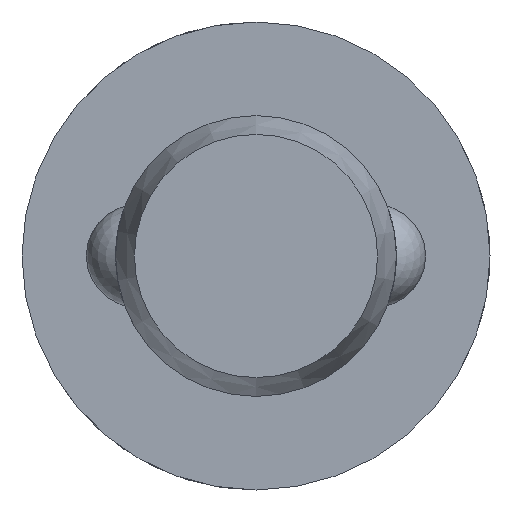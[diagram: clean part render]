
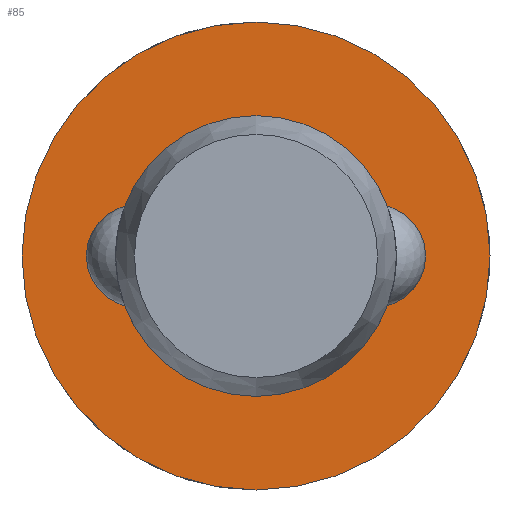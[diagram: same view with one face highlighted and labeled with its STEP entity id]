
A CAD part, left-side view. The second image highlights one B-rep face of the part: STEP entity #85.
In plain terms, the highlighted planar face has unit normal (-1, 0, 0).
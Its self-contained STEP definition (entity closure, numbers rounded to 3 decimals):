
#85 = ADVANCED_FACE( '', ( #130, #131 ), #132, .F. );
#130 = FACE_OUTER_BOUND( '', #201, .T. );
#131 = FACE_BOUND( '', #202, .T. );
#132 = PLANE( '', #203 );
#201 = EDGE_LOOP( '', ( #317 ) );
#202 = EDGE_LOOP( '', ( #318 ) );
#203 = AXIS2_PLACEMENT_3D( '', #319, #320, #321 );
#317 = ORIENTED_EDGE( '', *, *, #461, .F. );
#318 = ORIENTED_EDGE( '', *, *, #458, .T. );
#319 = CARTESIAN_POINT( '', ( 50.6, 6., 0. ) );
#320 = DIRECTION( '', ( 1., 0., 0. ) );
#321 = DIRECTION( '', ( 0., 0., -1. ) );
#458 = EDGE_CURVE( '', #532, #532, #533, .T. );
#461 = EDGE_CURVE( '', #538, #538, #539, .T. );
#532 = VERTEX_POINT( '', #742 );
#533 = CIRCLE( '', #743, 6. );
#538 = VERTEX_POINT( '', #858 );
#539 = CIRCLE( '', #859, 10. );
#742 = CARTESIAN_POINT( '', ( 50.6, 0., -6. ) );
#743 = AXIS2_PLACEMENT_3D( '', #936, #937, #938 );
#858 = CARTESIAN_POINT( '', ( 50.6, 0., -10. ) );
#859 = AXIS2_PLACEMENT_3D( '', #939, #940, #941 );
#936 = CARTESIAN_POINT( '', ( 50.6, 0., 0. ) );
#937 = DIRECTION( '', ( 1., 0., 0. ) );
#938 = DIRECTION( '', ( 0., 0., -1. ) );
#939 = CARTESIAN_POINT( '', ( 50.6, 0., 0. ) );
#940 = DIRECTION( '', ( 1., 0., 0. ) );
#941 = DIRECTION( '', ( 0., 0., -1. ) );
